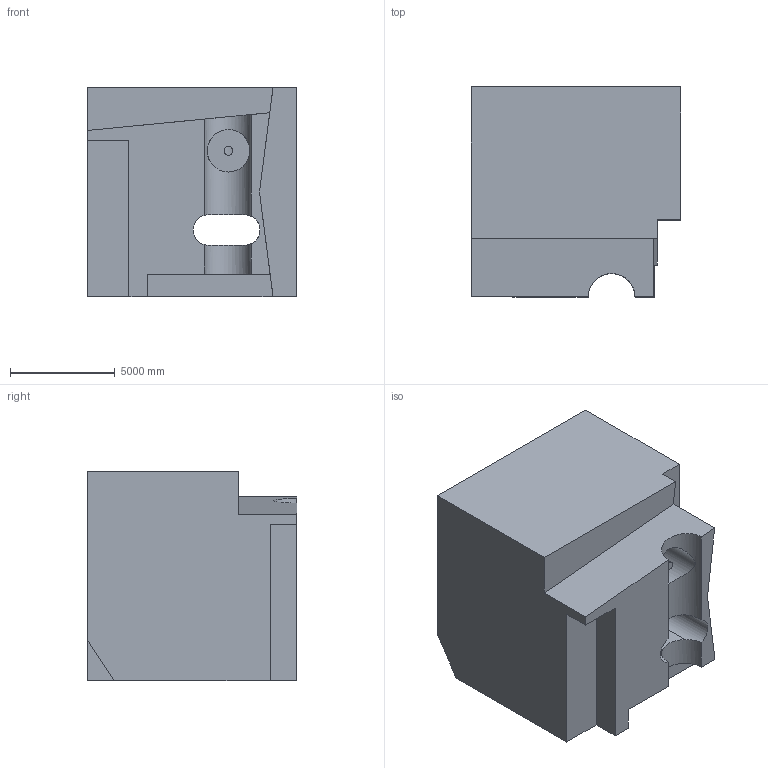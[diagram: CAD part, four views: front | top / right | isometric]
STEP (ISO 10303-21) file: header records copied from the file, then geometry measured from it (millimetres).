
FILE_DESCRIPTION (( 'STEP AP203' ), '1' );
FILE_NAME ('1721.STEP', '2022-08-19T12:04:12', ( 'user' ), ( '' ), 'SwSTEP 2.0', 'SolidWorks 2021', '' );
FILE_SCHEMA (( 'CONFIG_CONTROL_DESIGN' ));
Length unit declared in the file: centimetre
Products named in the file (1): 1721
Bounding box: 10000 x 10000 x 10000 mm (x, y, z)
Volume: 803249916709.8 mm3; surface area: 700357672.3 mm2
Topology: 1 solids, 1 shells, 32 faces, 87 edges, 58 vertices
Faces by surface type: plane 23, cylinder 9
Entity records: 1748 total; most frequent: CARTESIAN_POINT 862, ORIENTED_EDGE 174, DIRECTION 155, EDGE_CURVE 87, LINE 67, VECTOR 67, VERTEX_POINT 58, AXIS2_PLACEMENT_3D 44
